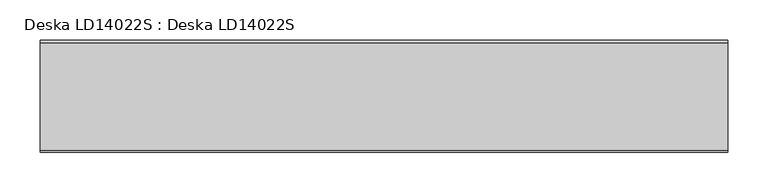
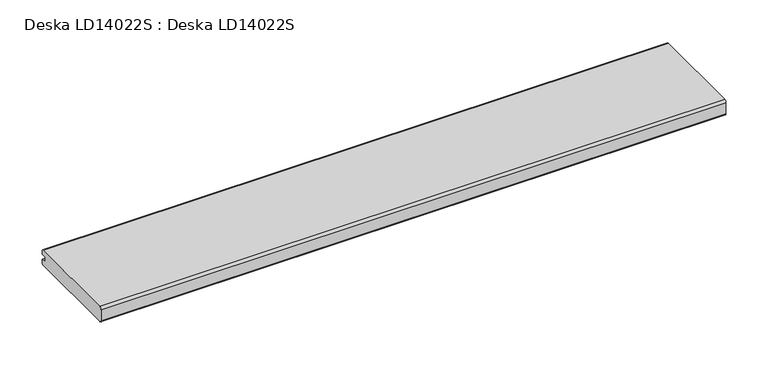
"""IFC4 building model written with IfcOpenShell, lengths in millimetres: proxy geometry, Deska LD14022S : Deska LD14022S."""

from ifc_helpers import new_model, si_unit, point, frame, frame_2d, origin, place, context, project, spatial, polyline, circle_curve, trimmed, segment, composite_curve, outline, extrude, source, transform, mapped, element, save


def deska_ld14022s_deska_ld14022s_40a74b43(model_context):
    return source(origin(), model_context, "Body", "SweptSolid", [
        extrude(outline(composite_curve([segment(polyline([(-7.0, 14.5), (-7.0, 7.5), (0.0, 7.5), (0.0, 3.0)]), True, "CONTINUOUS"), segment(trimmed(circle_curve(frame_2d((-3.0, 3.0)), 3.0), [point((0.0, 3.0))], [point((-3.0, 0.0))], False, "CARTESIAN"), True, "CONTINUOUS"), segment(polyline([(-3.0, 0.0), (-137.0, 0.0)]), True, "CONTINUOUS"), segment(trimmed(circle_curve(frame_2d((-137.0, 3.0)), 3.0), [point((-137.0, 0.0))], [point((-140.0, 3.0))], False, "CARTESIAN"), True, "CONTINUOUS"), segment(polyline([(-140.0, 3.0), (-140.0, 19.0)]), True, "CONTINUOUS"), segment(trimmed(circle_curve(frame_2d((-137.0, 19.0)), 3.0), [point((-140.0, 19.0))], [point((-137.0, 22.0))], False, "CARTESIAN"), True, "CONTINUOUS"), segment(polyline([(-137.0, 22.0), (-3.0, 22.0)]), True, "CONTINUOUS"), segment(trimmed(circle_curve(frame_2d((-3.0, 19.0)), 3.0), [point((-3.0, 22.0))], [point((0.0, 19.0))], False, "CARTESIAN"), True, "CONTINUOUS"), segment(polyline([(0.0, 19.0), (0.0, 14.5), (-7.0, 14.5)]), True, "CONTINUOUS")], self_intersect=False)), frame((0.0, 0.0, 0.0), z_axis=(1.0, 0.0, 0.0), x_axis=(0.0, 1.0, 0.0)), (0.0, 0.0, 1.0), 857.3106056),
    ])


if __name__ == "__main__":
    model = new_model("IFC4")
    model_context = context("Model", 3, world=origin())
    ifc_project = project(units=[si_unit("LENGTHUNIT", "METRE", prefix="MILLI")], contexts=[model_context])
    site = spatial("IfcSite", under=ifc_project)
    building = spatial("IfcBuilding", under=site)
    placement = place(None, origin())
    deska_ld14022s_deska_ld14022s_shape = deska_ld14022s_deska_ld14022s_40a74b43(model_context)
    element("IfcBuildingElementProxy", 1, Name="Deska LD14022S : Deska LD14022S", ObjectType="Deska LD14022S : Deska LD14022S", at=placement, inside=building, context=model_context, shape_type="MappedRepresentation", body=[
        mapped(deska_ld14022s_deska_ld14022s_shape, transform((0.0, 0.0, 0.0), x_axis=(1.0, 0.0, 0.0), y_axis=(0.0, 1.0, 0.0), z_axis=(0.0, 0.0, 1.0))),
    ])
    save(model, "model.ifc")
